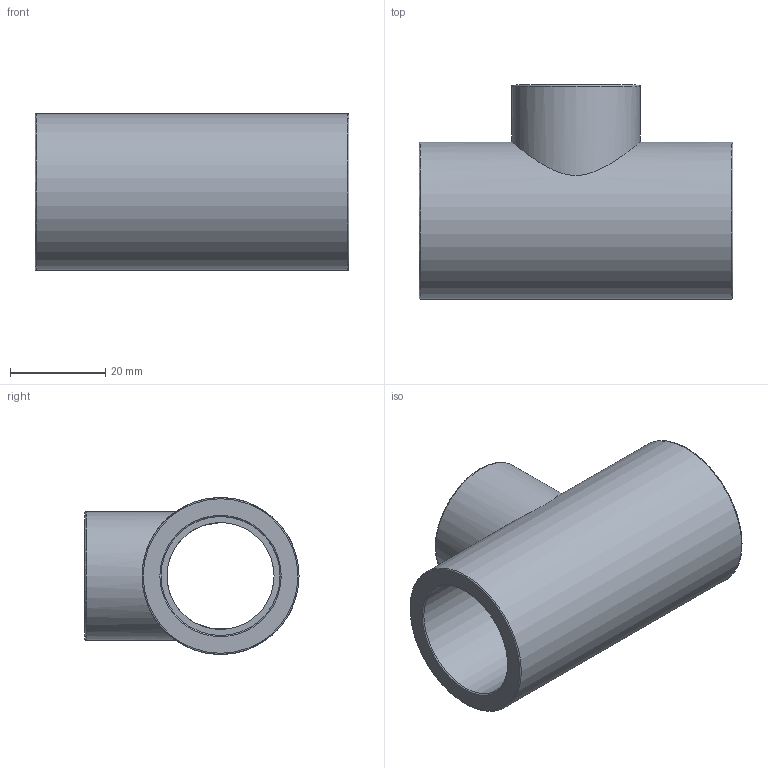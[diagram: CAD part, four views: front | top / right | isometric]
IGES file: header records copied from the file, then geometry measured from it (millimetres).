
Global section: file name: 051400025020.ipt; native system: Autodesk Inventor 2015; preprocessor: unknown; author: KIM; date: 20171207.165209; units: millimetre
Bounding box: 66 x 45 x 33 mm (x, y, z)
Volume: 28806.8 mm3; surface area: 14552.6 mm2
Topology: 1 solids, 1 shells, 19 faces, 58 edges, 44 vertices
Faces by surface type: revolution 11, plane 6, cylinder 2
Full cylindrical faces by diameter (mm): 27 x1, 33 x1
